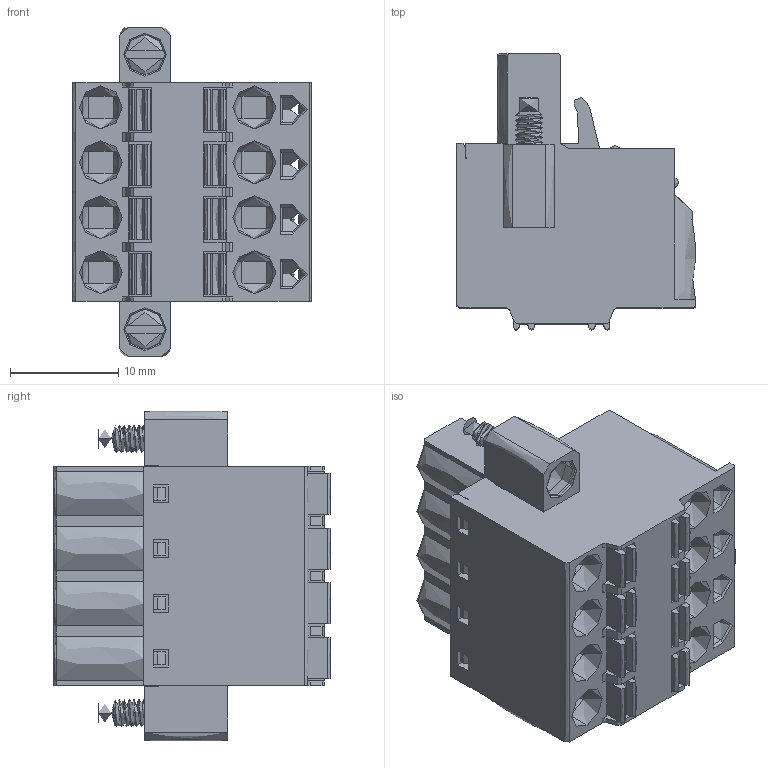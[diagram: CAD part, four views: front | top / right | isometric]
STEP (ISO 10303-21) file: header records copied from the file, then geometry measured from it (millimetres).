
FILE_DESCRIPTION(('Open CASCADE Model'),'2;1');
FILE_NAME('Open CASCADE Shape Model','2022-10-26T14:33:27',('Author'),( 'Open CASCADE'),'Open CASCADE STEP processor 6.5','Open CASCADE 6.5' ,'Unknown');
FILE_SCHEMA(('AUTOMOTIVE_DESIGN { 1 0 10303 214 1 1 1 1 }'));
Length unit declared in the file: millimetre
Products named in the file (963): CADSOFTTOOLS 2; CADSOFTTOOLS 2.1; CADSOFTTOOLS 2.2; CADSOFTTOOLS 2.3; CADSOFTTOOLS 2.4; CADSOFTTOOLS 2.5; CADSOFTTOOLS 2.6; CADSOFTTOOLS 2.7; CADSOFTTOOLS 2.8; CADSOFTTOOLS 2.9; CADSOFTTOOLS 2.10; CADSOFTTOOLS 2.11; CADSOFTTOOLS 2.12; CADSOFTTOOLS 2.13; CADSOFTTOOLS 2.14; CADSOFTTOOLS 2.15; CADSOFTTOOLS 2.16; CADSOFTTOOLS 2.17; CADSOFTTOOLS 2.18; CADSOFTTOOLS 2.19; CADSOFTTOOLS 2.20; CADSOFTTOOLS 2.21; CADSOFTTOOLS 2.22; CADSOFTTOOLS 2.23; CADSOFTTOOLS 2.24; CADSOFTTOOLS 2.25; CADSOFTTOOLS 2.26; CADSOFTTOOLS 2.27; CADSOFTTOOLS 2.28; CADSOFTTOOLS 2.29; CADSOFTTOOLS 2.30; CADSOFTTOOLS 2.31; CADSOFTTOOLS 2.32; CADSOFTTOOLS 2.33; CADSOFTTOOLS 2.34; CADSOFTTOOLS 2.35; CADSOFTTOOLS 2.36; CADSOFTTOOLS 2.37; CADSOFTTOOLS 2.38; CADSOFTTOOLS 2.39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
Assembly tree (962 placements, depth 2):
  CADSOFTTOOLS 2
    CADSOFTTOOLS 2.1
    CADSOFTTOOLS 2.2
    CADSOFTTOOLS 2.3
    CADSOFTTOOLS 2.4
    CADSOFTTOOLS 2.5
    CADSOFTTOOLS 2.6
    CADSOFTTOOLS 2.7
    CADSOFTTOOLS 2.8
    CADSOFTTOOLS 2.9
    CADSOFTTOOLS 2.10
    CADSOFTTOOLS 2.11
    CADSOFTTOOLS 2.12
    CADSOFTTOOLS 2.13
    CADSOFTTOOLS 2.14
    CADSOFTTOOLS 2.15
    CADSOFTTOOLS 2.16
    CADSOFTTOOLS 2.17
    CADSOFTTOOLS 2.18
    CADSOFTTOOLS 2.19
    CADSOFTTOOLS 2.20
    CADSOFTTOOLS 2.21
    CADSOFTTOOLS 2.22
    CADSOFTTOOLS 2.23
    CADSOFTTOOLS 2.24
    CADSOFTTOOLS 2.25
    CADSOFTTOOLS 2.26
    CADSOFTTOOLS 2.27
    CADSOFTTOOLS 2.28
    CADSOFTTOOLS 2.29
    CADSOFTTOOLS 2.30
    CADSOFTTOOLS 2.31
    CADSOFTTOOLS 2.32
    CADSOFTTOOLS 2.33
    CADSOFTTOOLS 2.34
    CADSOFTTOOLS 2.35
    CADSOFTTOOLS 2.36
    CADSOFTTOOLS 2.37
    CADSOFTTOOLS 2.38
    CADSOFTTOOLS 2.39
    CADSOFTTOOLS 2.40
    CADSOFTTOOLS 2.41
    CADSOFTTOOLS 2.42
    CADSOFTTOOLS 2.43
    CADSOFTTOOLS 2.44
    CADSOFTTOOLS 2.45
    CADSOFTTOOLS 2.46
    CADSOFTTOOLS 2.47
    CADSOFTTOOLS 2.48
    CADSOFTTOOLS 2.49
    CADSOFTTOOLS 2.50
    CADSOFTTOOLS 2.51
    CADSOFTTOOLS 2.52
    CADSOFTTOOLS 2.53
    CADSOFTTOOLS 2.54
    CADSOFTTOOLS 2.55
    CADSOFTTOOLS 2.56
    CADSOFTTOOLS 2.57
    CADSOFTTOOLS 2.58
    CADSOFTTOOLS 2.59
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Bounding box: 22.1 x 25.55 x 30.48 mm (x, y, z)
Surface area: 6240.4 mm2 (no closed solid volume)
Topology: 0 solids, 962 shells, 962 faces, 5270 edges, 5270 vertices
Faces by surface type: bspline 962
Entity records: 180861 total; most frequent: CARTESIAN_POINT 117556, B_SPLINE_CURVE_WITH_KNOTS 9543, ORIENTED_EDGE 5270, EDGE_CURVE 5270, VERTEX_POINT 5270, SURFACE_CURVE 5270, PCURVE 5270, DEFINITIONAL_REPRESENTATION 5270
